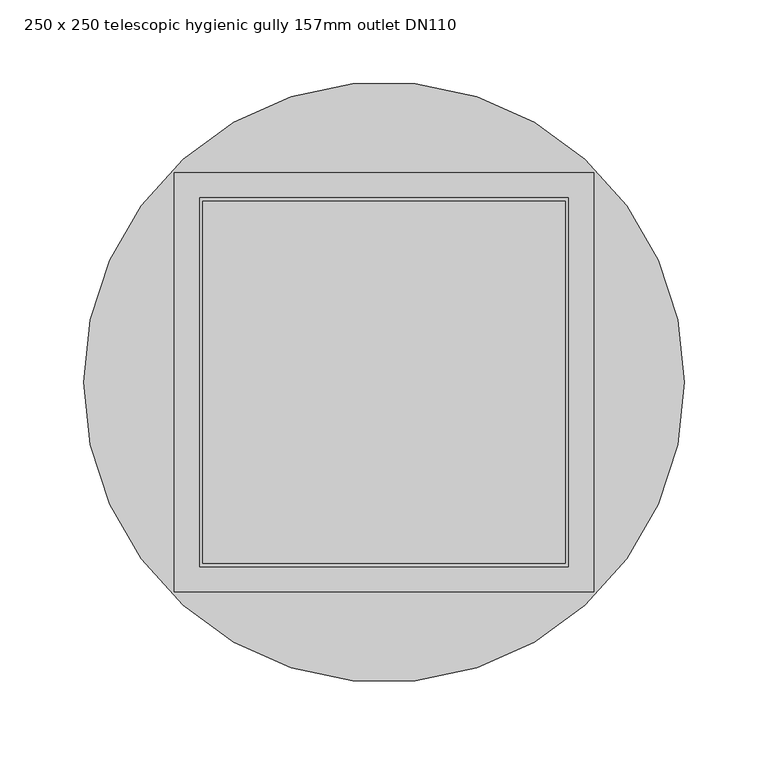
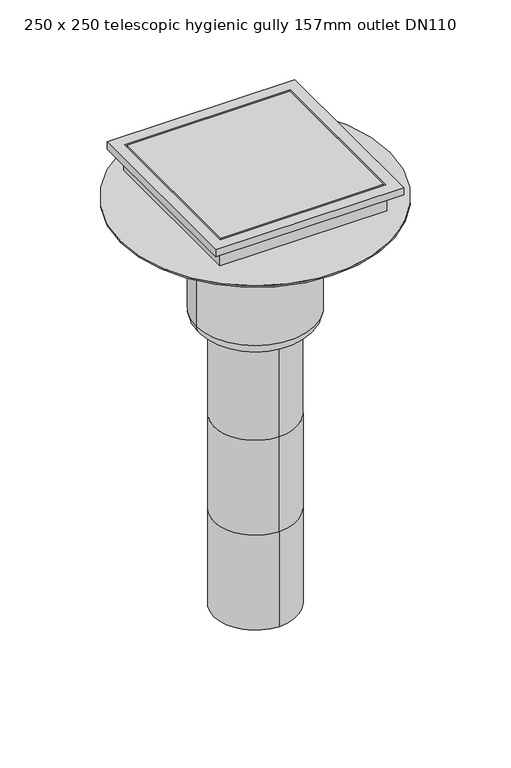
"""IFC4 building model written with IfcOpenShell, lengths in millimetres: sanitary terminal geometry, PF_ST_UN_Siphon telescopics eskis elongated hygiene first_ACO : 250 x 250 telescopic hygienic gully 157mm outlet DN110."""

from ifc_helpers import new_model, si_unit, point, frame, origin, origin_2d, place, context, project, spatial, polyline, circle_curve, ellipse_curve, trimmed, segment, composite_curve, outline, extrude, faceted_brep, source, transform, mapped, element, save
from ifc_brep_helpers import plane_surface, cylinder_surface, revolved_surface, advanced_brep


def sanitary_terminal_250_x_250_telescopic_hygienic_gully_157mm_9b66297a(model_context):
    return source(origin(), model_context, "Body", "SolidModel", [
        extrude(outline(composite_curve([segment(trimmed(circle_curve(origin_2d(), 71.5), [point((-71.5, 0.0))], [point((71.5, 0.0))], False, "CARTESIAN"), True, "CONTINUOUS"), segment(trimmed(circle_curve(origin_2d(), 71.5), [point((71.5, 0.0))], [point((-71.5, 0.0))], False, "CARTESIAN"), True, "CONTINUOUS")], self_intersect=False)), frame((0.0, 0.0, -215.0), z_axis=(0.0, 0.0, 1.0), x_axis=(1.0, 0.0, 0.0)), (0.0, 0.0, 1.0), 59.0),
        faceted_brep([(125.0, 125.0, -130.0), (125.0, 125.0, -120.0), (125.0, -125.0, -120.0), (125.0, -125.0, -130.0), (111.0, 111.0, -156.0), (111.0, 111.0, -130.0), (111.0, -111.0, -130.0), (111.0, -111.0, -156.0), (110.0, -110.0, -120.0), (110.0, 110.0, -120.0), (110.0, 110.0, -146.0), (110.0, -110.0, -146.0), (-125.0, -125.0, -120.0), (-125.0, -125.0, -130.0), (-111.0, -111.0, -130.0), (-111.0, -111.0, -156.0), (-110.0, -110.0, -120.0), (-110.0, -110.0, -146.0), (-125.0, 125.0, -120.0), (-125.0, 125.0, -130.0), (-111.0, 111.0, -130.0), (-111.0, 111.0, -156.0), (-110.0, 110.0, -120.0), (-110.0, 110.0, -146.0)], [[[0, 1, 2, 3]], [[4, 5, 6, 7]], [[8, 9, 10, 11]], [[3, 2, 12, 13]], [[7, 6, 14, 15]], [[16, 8, 11, 17]], [[13, 12, 18, 19]], [[15, 14, 20, 21]], [[22, 16, 17, 23]], [[2, 1, 18, 12], [9, 8, 16, 22]], [[1, 0, 19, 18]], [[0, 3, 13, 19], [6, 5, 20, 14]], [[5, 4, 21, 20]], [[4, 7, 15, 21]], [[9, 22, 23, 10]], [[11, 10, 23, 17]]]),
        extrude(outline(polyline([(108.0, 108.0), (108.0, -108.0), (-108.0, -108.0), (-108.0, 108.0), (108.0, 108.0)])), frame((0.0, 0.0, -146.0), z_axis=(0.0, 0.0, 1.0), x_axis=(1.0, 0.0, 0.0)), (0.0, 0.0, 1.0), 26.0),
        advanced_brep(
        [(0.0, -55.0, -736.0), (0.0, 55.0, -736.0), (0.0, -55.0, -602.6666667), (0.0, 55.0, -602.6666667), (0.0, -55.0, -469.3333333), (0.0, 55.0, -469.3333333), (0.0, 55.0, -336.0), (55.0, 0.0, -336.0), (0.0, -55.0, -336.0), (-55.0, 0.0, -336.0), (78.5, 0.0, -319.5), (-78.5, 0.0, -319.5), (-78.5, 0.0, -167.0), (78.5, 0.0, -167.0), (62.0, 0.0, -336.0), (-62.0, 0.0, -336.0), (-179.0, 0.0, -167.0), (179.0, 0.0, -167.0), (-179.0, 0.0, -165.0), (179.0, 0.0, -165.0)],
        [
            (0, 1, circle_curve(frame((0.0, 0.0, -736.0), z_axis=(0.0, 0.0, -1.0), x_axis=(0.0, 1.0, 0.0)), 55.0)),
            (1, 0, circle_curve(frame((0.0, 0.0, -736.0), z_axis=(0.0, 0.0, -1.0), x_axis=(0.0, 1.0, 0.0)), 55.0)),
            (0, 2),
            (2, 3, circle_curve(frame((0.0, 0.0, -602.6666667), z_axis=(0.0, 0.0, -1.0), x_axis=(0.0, 1.0, 0.0)), 55.0)),
            (3, 1),
            (3, 2, circle_curve(frame((0.0, 0.0, -602.6666667), z_axis=(0.0, 0.0, -1.0), x_axis=(0.0, 1.0, 0.0)), 55.0)),
            (4, 2),
            (3, 5),
            (5, 4, circle_curve(frame((0.0, 0.0, -469.3333333), z_axis=(0.0, 0.0, -1.0), x_axis=(1.0, 0.0, 0.0)), 55.0)),
            (4, 5, circle_curve(frame((0.0, 0.0, -469.3333333), z_axis=(0.0, 0.0, -1.0), x_axis=(-1.0, 0.0, 0.0)), 55.0)),
            (5, 6),
            (6, 7, circle_curve(frame((0.0, 0.0, -336.0), z_axis=(0.0, 0.0, -1.0), x_axis=(0.0, 1.0, 0.0)), 55.0)),
            (7, 8, circle_curve(frame((0.0, 0.0, -336.0), z_axis=(0.0, 0.0, -1.0), x_axis=(0.0, 1.0, 0.0)), 55.0)),
            (8, 4),
            (8, 9, circle_curve(frame((0.0, 0.0, -336.0), z_axis=(0.0, 0.0, -1.0), x_axis=(0.0, 1.0, 0.0)), 55.0)),
            (9, 6, circle_curve(frame((0.0, 0.0, -336.0), z_axis=(0.0, 0.0, -1.0), x_axis=(0.0, 1.0, 0.0)), 55.0)),
            (10, 11, circle_curve(frame((0.0, 0.0, -319.5), z_axis=(0.0, 0.0, 1.0), x_axis=(-1.0, 0.0, 0.0)), 78.5)),
            (11, 12),
            (12, 13, circle_curve(frame((0.0, 0.0, -167.0), z_axis=(0.0, 0.0, -1.0), x_axis=(-1.0, 0.0, 0.0)), 78.5)),
            (13, 10),
            (11, 10, circle_curve(frame((0.0, 0.0, -319.5), z_axis=(0.0, 0.0, 1.0), x_axis=(-1.0, 0.0, 0.0)), 78.5)),
            (13, 12, circle_curve(frame((0.0, 0.0, -167.0), z_axis=(0.0, 0.0, -1.0), x_axis=(-1.0, 0.0, 0.0)), 78.5)),
            (10, 14, circle_curve(frame((62.0, 0.0, -319.5), z_axis=(0.0, 1.0, 0.0), x_axis=(-1.0, 0.0, 0.0)), 16.5)),
            (14, 15, circle_curve(frame((0.0, 0.0, -336.0), z_axis=(0.0, 0.0, 1.0), x_axis=(-1.0, 0.0, 0.0)), 62.0)),
            (15, 11, circle_curve(frame((-62.0, 0.0, -319.5), z_axis=(0.0, 1.0, 0.0), x_axis=(1.0, 0.0, 0.0)), 16.5)),
            (15, 14, circle_curve(frame((0.0, 0.0, -336.0), z_axis=(0.0, 0.0, 1.0), x_axis=(-1.0, 0.0, 0.0)), 62.0)),
            (14, 7),
            (9, 15),
            (16, 17, circle_curve(frame((0.0, 0.0, -167.0), z_axis=(0.0, 0.0, -1.0), x_axis=(1.0, 0.0, 0.0)), 179.0)),
            (17, 16, circle_curve(frame((0.0, 0.0, -167.0), z_axis=(0.0, 0.0, -1.0), x_axis=(1.0, 0.0, 0.0)), 179.0)),
            (18, 19, circle_curve(frame((0.0, 0.0, -165.0), z_axis=(0.0, 0.0, 1.0), x_axis=(1.0, 0.0, 0.0)), 179.0)),
            (19, 18, circle_curve(frame((0.0, 0.0, -165.0), z_axis=(0.0, 0.0, 1.0), x_axis=(1.0, 0.0, 0.0)), 179.0)),
            (17, 19),
            (18, 16),
        ],
        [
            plane_surface(frame((0.0, 55.0, -736.0), z_axis=(0.0, 0.0, -1.0), x_axis=(1.0, 0.0, 0.0))),
            cylinder_surface(frame((0.0, 0.0, -602.6666667), z_axis=(0.0, 0.0, -1.0), x_axis=(0.0, 1.0, 0.0)), 55.0),
            cylinder_surface(frame((0.0, 0.0, -469.3333333), z_axis=(0.0, 0.0, -1.0), x_axis=(1.0, 0.0, 0.0)), 55.0),
            cylinder_surface(frame((0.0, 0.0, -469.3333333), z_axis=(0.0, 0.0, -1.0), x_axis=(-1.0, 0.0, 0.0)), 55.0),
            cylinder_surface(frame((0.0, 0.0, -336.0), z_axis=(0.0, 0.0, -1.0), x_axis=(0.0, 1.0, 0.0)), 55.0),
            cylinder_surface(frame((0.0, 0.0, -105.0), z_axis=(0.0, 0.0, -1.0), x_axis=(-1.0, 0.0, 0.0)), 78.5),
            revolved_surface(trimmed(ellipse_curve(frame((-62.0, 0.0, -319.5), z_axis=(0.0, -1.0, 0.0), x_axis=(1.0, 0.0, 0.0)), 16.5, 16.5), [point((-78.5, 0.0, -319.5))], [point((-62.0, 0.0, -336.0))], True, "CARTESIAN"), (0.0, 0.0, -105.0), (0.0, 0.0, -1.0)),
            plane_surface(frame((0.0, 0.0, -336.0), z_axis=(0.0, 0.0, -1.0), x_axis=(-1.0, 0.0, 0.0))),
            plane_surface(frame((179.0, 0.0, -167.0), z_axis=(0.0, 0.0, -1.0), x_axis=(0.0, -1.0, 0.0))),
            plane_surface(frame((179.0, 0.0, -165.0), z_axis=(0.0, 0.0, 1.0), x_axis=(0.0, 1.0, 0.0))),
            cylinder_surface(frame((0.0, 0.0, -167.0), z_axis=(0.0, 0.0, 1.0), x_axis=(1.0, 0.0, 0.0)), 179.0),
        ],
        [
            (0, [[1, 2]]),
            (1, [[-1, 3, 4, 5]]),
            (1, [[-2, -5, 6, -3]]),
            (2, [[7, -6, 8, 9]]),
            (3, [[-7, 10, -8, -4]]),
            (4, [[11, 12, 13, 14, -9]]),
            (4, [[-11, -10, -14, 15, 16]]),
            (5, [[17, 18, 19, 20]]),
            (5, [[-18, 21, -20, 22]]),
            (6, [[-17, 23, 24, 25]]),
            (6, [[-21, -25, 26, -23]]),
            (7, [[-24, 27, -12, -16, 28]]),
            (7, [[-26, -28, -15, -13, -27]]),
            (8, [[29, 30], [-19, -22]]),
            (9, [[31, 32]]),
            (10, [[-30, 33, -31, 34]]),
            (10, [[-29, -34, -32, -33]]),
        ],
    ),
    ])


if __name__ == "__main__":
    model = new_model("IFC4")
    model_context = context("Model", 3, world=origin())
    ifc_project = project(units=[si_unit("LENGTHUNIT", "METRE", prefix="MILLI")], contexts=[model_context])
    site = spatial("IfcSite", under=ifc_project)
    building = spatial("IfcBuilding", under=site)
    placement = place(None, origin())
    sanitary_terminal_250_x_250_telescopic_hygienic_gully_157mm_shape = sanitary_terminal_250_x_250_telescopic_hygienic_gully_157mm_9b66297a(model_context)
    element("IfcSanitaryTerminal", 1, ObjectType="PF_ST_UN_Siphon telescopics eskis elongated hygiene first_ACO : 250 x 250 telescopic hygienic gully 157mm outlet DN110", at=placement, inside=building, context=model_context, shape_type="MappedRepresentation", body=[
        mapped(sanitary_terminal_250_x_250_telescopic_hygienic_gully_157mm_shape, transform((0.0, 0.0, 0.0), x_axis=(1.0, 0.0, 0.0), y_axis=(0.0, 1.0, 0.0), z_axis=(0.0, 0.0, 1.0))),
    ])
    save(model, "model.ifc")
